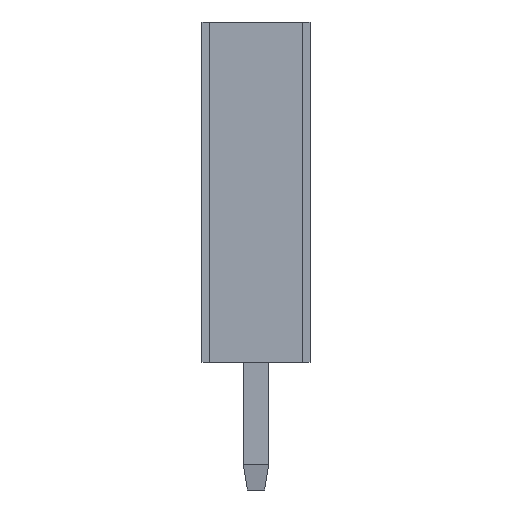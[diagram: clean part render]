
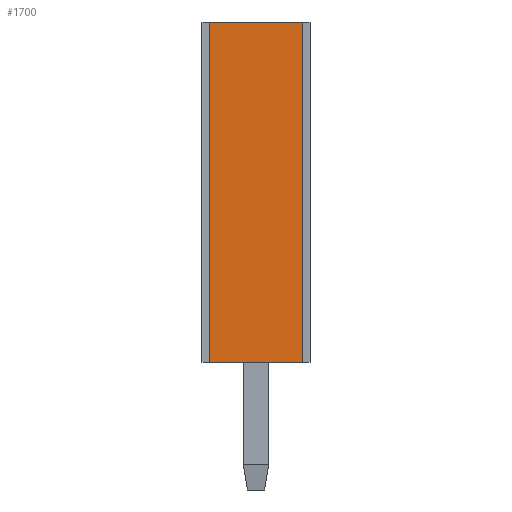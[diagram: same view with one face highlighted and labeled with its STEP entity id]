
A CAD part, left-side view. The second image highlights one B-rep face of the part: STEP entity #1700.
In plain terms, the highlighted planar face has unit normal (-1, 0, 0).
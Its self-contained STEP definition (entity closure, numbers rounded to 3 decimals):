
#708 = PLANE('',#709);
#709 = AXIS2_PLACEMENT_3D('',#710,#711,#712);
#710 = CARTESIAN_POINT('',(0.,0.17,8.));
#711 = DIRECTION('',(0.,0.,1.));
#712 = DIRECTION('',(1.,0.,0.));
#1147 = VERTEX_POINT('',#1148);
#1148 = CARTESIAN_POINT('',(0.,2.37,8.));
#1162 = PLANE('',#1163);
#1163 = AXIS2_PLACEMENT_3D('',#1164,#1165,#1166);
#1164 = CARTESIAN_POINT('',(0.,2.37,0.));
#1165 = DIRECTION('',(0.,1.,0.));
#1166 = DIRECTION('',(0.,0.,1.));
#1174 = EDGE_CURVE('',#1175,#1147,#1177,.T.);
#1175 = VERTEX_POINT('',#1176);
#1176 = CARTESIAN_POINT('',(0.,0.17,8.));
#1177 = SURFACE_CURVE('',#1178,(#1182,#1189),.PCURVE_S1.);
#1178 = LINE('',#1179,#1180);
#1179 = CARTESIAN_POINT('',(0.,0.17,8.));
#1180 = VECTOR('',#1181,1.);
#1181 = DIRECTION('',(0.,1.,0.));
#1182 = PCURVE('',#708,#1183);
#1183 = DEFINITIONAL_REPRESENTATION('',(#1184),#1188);
#1184 = LINE('',#1185,#1186);
#1185 = CARTESIAN_POINT('',(0.,0.));
#1186 = VECTOR('',#1187,1.);
#1187 = DIRECTION('',(0.,1.));
#1188 = ( GEOMETRIC_REPRESENTATION_CONTEXT(2) 
PARAMETRIC_REPRESENTATION_CONTEXT() REPRESENTATION_CONTEXT('2D SPACE',''
  ) );
#1189 = PCURVE('',#1190,#1195);
#1190 = PLANE('',#1191);
#1191 = AXIS2_PLACEMENT_3D('',#1192,#1193,#1194);
#1192 = CARTESIAN_POINT('',(0.,0.17,0.));
#1193 = DIRECTION('',(1.,0.,0.));
#1194 = DIRECTION('',(0.,0.,1.));
#1195 = DEFINITIONAL_REPRESENTATION('',(#1196),#1200);
#1196 = LINE('',#1197,#1198);
#1197 = CARTESIAN_POINT('',(8.,0.));
#1198 = VECTOR('',#1199,1.);
#1199 = DIRECTION('',(0.,-1.));
#1200 = ( GEOMETRIC_REPRESENTATION_CONTEXT(2) 
PARAMETRIC_REPRESENTATION_CONTEXT() REPRESENTATION_CONTEXT('2D SPACE',''
  ) );
#1216 = PLANE('',#1217);
#1217 = AXIS2_PLACEMENT_3D('',#1218,#1219,#1220);
#1218 = CARTESIAN_POINT('',(0.,0.17,0.));
#1219 = DIRECTION('',(0.,1.,0.));
#1220 = DIRECTION('',(0.,0.,1.));
#1582 = VERTEX_POINT('',#1583);
#1583 = CARTESIAN_POINT('',(0.,2.37,0.));
#1597 = PLANE('',#1598);
#1598 = AXIS2_PLACEMENT_3D('',#1599,#1600,#1601);
#1599 = CARTESIAN_POINT('',(0.,0.17,0.));
#1600 = DIRECTION('',(0.,0.,1.));
#1601 = DIRECTION('',(1.,0.,0.));
#1609 = EDGE_CURVE('',#1582,#1147,#1610,.T.);
#1610 = SURFACE_CURVE('',#1611,(#1615,#1622),.PCURVE_S1.);
#1611 = LINE('',#1612,#1613);
#1612 = CARTESIAN_POINT('',(0.,2.37,0.));
#1613 = VECTOR('',#1614,1.);
#1614 = DIRECTION('',(0.,0.,1.));
#1615 = PCURVE('',#1162,#1616);
#1616 = DEFINITIONAL_REPRESENTATION('',(#1617),#1621);
#1617 = LINE('',#1618,#1619);
#1618 = CARTESIAN_POINT('',(0.,0.));
#1619 = VECTOR('',#1620,1.);
#1620 = DIRECTION('',(1.,0.));
#1621 = ( GEOMETRIC_REPRESENTATION_CONTEXT(2) 
PARAMETRIC_REPRESENTATION_CONTEXT() REPRESENTATION_CONTEXT('2D SPACE',''
  ) );
#1622 = PCURVE('',#1190,#1623);
#1623 = DEFINITIONAL_REPRESENTATION('',(#1624),#1628);
#1624 = LINE('',#1625,#1626);
#1625 = CARTESIAN_POINT('',(0.,-2.2));
#1626 = VECTOR('',#1627,1.);
#1627 = DIRECTION('',(1.,0.));
#1628 = ( GEOMETRIC_REPRESENTATION_CONTEXT(2) 
PARAMETRIC_REPRESENTATION_CONTEXT() REPRESENTATION_CONTEXT('2D SPACE',''
  ) );
#1636 = VERTEX_POINT('',#1637);
#1637 = CARTESIAN_POINT('',(0.,0.17,0.));
#1660 = EDGE_CURVE('',#1636,#1175,#1661,.T.);
#1661 = SURFACE_CURVE('',#1662,(#1666,#1673),.PCURVE_S1.);
#1662 = LINE('',#1663,#1664);
#1663 = CARTESIAN_POINT('',(0.,0.17,0.));
#1664 = VECTOR('',#1665,1.);
#1665 = DIRECTION('',(0.,0.,1.));
#1666 = PCURVE('',#1216,#1667);
#1667 = DEFINITIONAL_REPRESENTATION('',(#1668),#1672);
#1668 = LINE('',#1669,#1670);
#1669 = CARTESIAN_POINT('',(0.,0.));
#1670 = VECTOR('',#1671,1.);
#1671 = DIRECTION('',(1.,0.));
#1672 = ( GEOMETRIC_REPRESENTATION_CONTEXT(2) 
PARAMETRIC_REPRESENTATION_CONTEXT() REPRESENTATION_CONTEXT('2D SPACE',''
  ) );
#1673 = PCURVE('',#1190,#1674);
#1674 = DEFINITIONAL_REPRESENTATION('',(#1675),#1679);
#1675 = LINE('',#1676,#1677);
#1676 = CARTESIAN_POINT('',(0.,0.));
#1677 = VECTOR('',#1678,1.);
#1678 = DIRECTION('',(1.,0.));
#1679 = ( GEOMETRIC_REPRESENTATION_CONTEXT(2) 
PARAMETRIC_REPRESENTATION_CONTEXT() REPRESENTATION_CONTEXT('2D SPACE',''
  ) );
#1700 = ADVANCED_FACE('',(#1701),#1190,.F.);
#1701 = FACE_BOUND('',#1702,.F.);
#1702 = EDGE_LOOP('',(#1703,#1704,#1725,#1726));
#1703 = ORIENTED_EDGE('',*,*,#1660,.F.);
#1704 = ORIENTED_EDGE('',*,*,#1705,.T.);
#1705 = EDGE_CURVE('',#1636,#1582,#1706,.T.);
#1706 = SURFACE_CURVE('',#1707,(#1711,#1718),.PCURVE_S1.);
#1707 = LINE('',#1708,#1709);
#1708 = CARTESIAN_POINT('',(0.,0.17,0.));
#1709 = VECTOR('',#1710,1.);
#1710 = DIRECTION('',(0.,1.,0.));
#1711 = PCURVE('',#1190,#1712);
#1712 = DEFINITIONAL_REPRESENTATION('',(#1713),#1717);
#1713 = LINE('',#1714,#1715);
#1714 = CARTESIAN_POINT('',(0.,0.));
#1715 = VECTOR('',#1716,1.);
#1716 = DIRECTION('',(0.,-1.));
#1717 = ( GEOMETRIC_REPRESENTATION_CONTEXT(2) 
PARAMETRIC_REPRESENTATION_CONTEXT() REPRESENTATION_CONTEXT('2D SPACE',''
  ) );
#1718 = PCURVE('',#1597,#1719);
#1719 = DEFINITIONAL_REPRESENTATION('',(#1720),#1724);
#1720 = LINE('',#1721,#1722);
#1721 = CARTESIAN_POINT('',(0.,0.));
#1722 = VECTOR('',#1723,1.);
#1723 = DIRECTION('',(0.,1.));
#1724 = ( GEOMETRIC_REPRESENTATION_CONTEXT(2) 
PARAMETRIC_REPRESENTATION_CONTEXT() REPRESENTATION_CONTEXT('2D SPACE',''
  ) );
#1725 = ORIENTED_EDGE('',*,*,#1609,.T.);
#1726 = ORIENTED_EDGE('',*,*,#1174,.F.);
